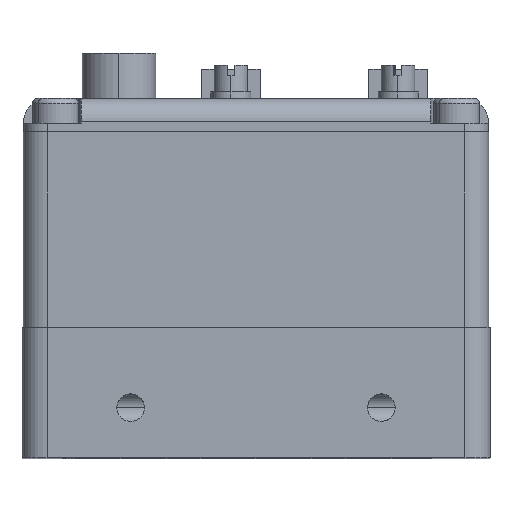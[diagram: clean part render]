
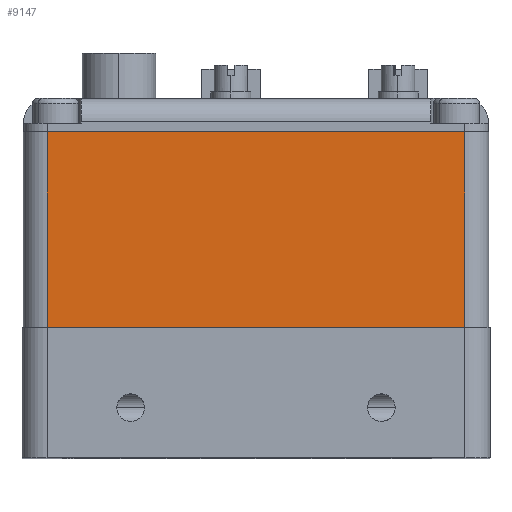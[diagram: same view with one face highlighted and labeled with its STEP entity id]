
A CAD part, top view. The second image highlights one B-rep face of the part: STEP entity #9147.
In plain terms, the highlighted planar face has unit normal (0, 0, 1).
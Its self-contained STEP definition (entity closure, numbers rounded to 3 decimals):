
#8929 = EDGE_CURVE ( 'NONE', #9044, #9248, #17331, .T. ) ;
#8961 = EDGE_CURVE ( 'NONE', #8969, #9008, #17542, .T. ) ;
#8969 = VERTEX_POINT ( 'NONE', #17521 ) ;
#9008 = VERTEX_POINT ( 'NONE', #17517 ) ;
#9044 = VERTEX_POINT ( 'NONE', #17458 ) ;
#9049 = EDGE_CURVE ( 'NONE', #9248, #9008, #17446, .T. ) ;
#9050 = EDGE_CURVE ( 'NONE', #8969, #9044, #17429, .T. ) ;
#9133 = ORIENTED_EDGE ( 'NONE', *, *, #8929, .T. ) ;
#9135 = ORIENTED_EDGE ( 'NONE', *, *, #8961, .F. ) ;
#9147 = ADVANCED_FACE ( 'NONE', ( #17598 ), #17619, .F. ) ;
#9153 = ORIENTED_EDGE ( 'NONE', *, *, #9050, .T. ) ;
#9172 = EDGE_LOOP ( 'NONE', ( #9133, #9211, #9135, #9153 ) ) ;
#9211 = ORIENTED_EDGE ( 'NONE', *, *, #9049, .T. ) ;
#9248 = VERTEX_POINT ( 'NONE', #17874 ) ;
#17324 = DIRECTION ( 'NONE',  ( 1., 0., 0. ) ) ;
#17325 = VECTOR ( 'NONE', #17324, 1000. ) ;
#17327 = CARTESIAN_POINT ( 'NONE',  ( -27.85, 0., 29.85 ) ) ;
#17331 = LINE ( 'NONE', #17327, #17325 ) ;
#17370 = DIRECTION ( 'NONE',  ( 1., 0., 0. ) ) ;
#17401 = DIRECTION ( 'NONE',  ( 0., -1., 0. ) ) ;
#17402 = VECTOR ( 'NONE', #17401, 1000. ) ;
#17403 = CARTESIAN_POINT ( 'NONE',  ( -25., 23.4, 29.85 ) ) ;
#17429 = LINE ( 'NONE', #17403, #17402 ) ;
#17432 = DIRECTION ( 'NONE',  ( 0., 1., 0. ) ) ;
#17433 = VECTOR ( 'NONE', #17432, 1000. ) ;
#17434 = CARTESIAN_POINT ( 'NONE',  ( 25., 23.4, 29.85 ) ) ;
#17446 = LINE ( 'NONE', #17434, #17433 ) ;
#17458 = CARTESIAN_POINT ( 'NONE',  ( -25., 0., 29.85 ) ) ;
#17466 = VECTOR ( 'NONE', #17370, 1000. ) ;
#17467 = CARTESIAN_POINT ( 'NONE',  ( -27.85, 23.4, 29.85 ) ) ;
#17517 = CARTESIAN_POINT ( 'NONE',  ( 25., 23.4, 29.85 ) ) ;
#17521 = CARTESIAN_POINT ( 'NONE',  ( -25., 23.4, 29.85 ) ) ;
#17542 = LINE ( 'NONE', #17467, #17466 ) ;
#17598 = FACE_OUTER_BOUND ( 'NONE', #9172, .T. ) ;
#17606 = CARTESIAN_POINT ( 'NONE',  ( -27.85, 23.4, 29.85 ) ) ;
#17612 = DIRECTION ( 'NONE',  ( 0., 0., -1. ) ) ;
#17619 = PLANE ( 'NONE',  #17634 ) ;
#17621 = DIRECTION ( 'NONE',  ( -1., 0., 0. ) ) ;
#17634 = AXIS2_PLACEMENT_3D ( 'NONE', #17606, #17612, #17621 ) ;
#17874 = CARTESIAN_POINT ( 'NONE',  ( 25., 0., 29.85 ) ) ;
